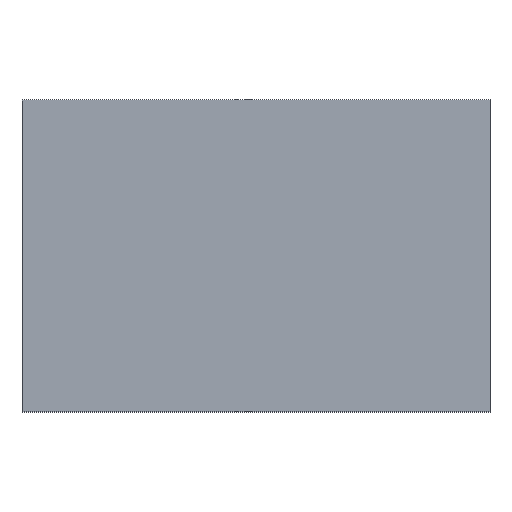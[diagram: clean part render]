
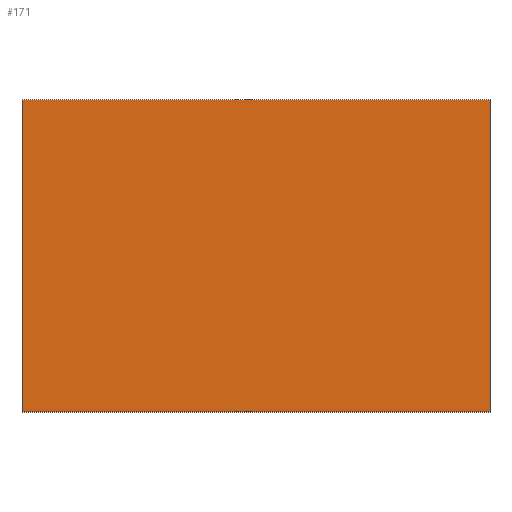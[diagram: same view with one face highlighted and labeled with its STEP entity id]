
A CAD part, top view. The second image highlights one B-rep face of the part: STEP entity #171.
In plain terms, the highlighted planar face has unit normal (0, 0, 1).
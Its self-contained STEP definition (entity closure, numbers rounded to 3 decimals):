
#42 = VERTEX_POINT('',#43);
#43 = CARTESIAN_POINT('',(300.,-200.,1.51));
#49 = EDGE_CURVE('',#42,#50,#52,.T.);
#50 = VERTEX_POINT('',#51);
#51 = CARTESIAN_POINT('',(0.,-200.,1.51));
#52 = LINE('',#53,#54);
#53 = CARTESIAN_POINT('',(300.,-200.,1.51));
#54 = VECTOR('',#55,1.);
#55 = DIRECTION('',(-1.,0.,0.));
#80 = EDGE_CURVE('',#50,#81,#83,.T.);
#81 = VERTEX_POINT('',#82);
#82 = CARTESIAN_POINT('',(0.,0.,1.51));
#83 = LINE('',#84,#85);
#84 = CARTESIAN_POINT('',(0.,-200.,1.51));
#85 = VECTOR('',#86,1.);
#86 = DIRECTION('',(0.,1.,0.));
#111 = EDGE_CURVE('',#81,#112,#114,.T.);
#112 = VERTEX_POINT('',#113);
#113 = CARTESIAN_POINT('',(300.,0.,1.51));
#114 = LINE('',#115,#116);
#115 = CARTESIAN_POINT('',(0.,0.,1.51));
#116 = VECTOR('',#117,1.);
#117 = DIRECTION('',(1.,0.,0.));
#142 = EDGE_CURVE('',#112,#42,#143,.T.);
#143 = LINE('',#144,#145);
#144 = CARTESIAN_POINT('',(300.,0.,1.51));
#145 = VECTOR('',#146,1.);
#146 = DIRECTION('',(0.,-1.,0.));
#171 = ADVANCED_FACE('',(#172),#178,.T.);
#172 = FACE_BOUND('',#173,.F.);
#173 = EDGE_LOOP('',(#174,#175,#176,#177));
#174 = ORIENTED_EDGE('',*,*,#49,.T.);
#175 = ORIENTED_EDGE('',*,*,#80,.T.);
#176 = ORIENTED_EDGE('',*,*,#111,.T.);
#177 = ORIENTED_EDGE('',*,*,#142,.T.);
#178 = PLANE('',#179);
#179 = AXIS2_PLACEMENT_3D('',#180,#181,#182);
#180 = CARTESIAN_POINT('',(0.,0.,1.51));
#181 = DIRECTION('',(0.,0.,1.));
#182 = DIRECTION('',(1.,0.,-0.));
